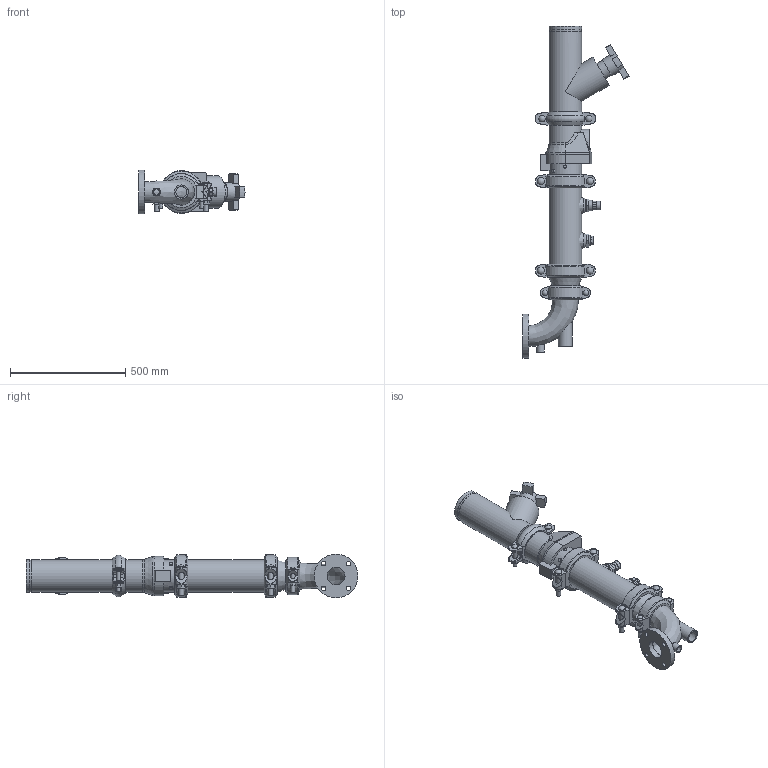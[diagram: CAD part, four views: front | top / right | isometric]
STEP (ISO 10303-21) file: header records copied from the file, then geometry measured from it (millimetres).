
FILE_DESCRIPTION(/* description */ ('VIC DVI PUMP DROP HORZ S/383 (OGSxFLG) (S/924-0.75)','CAx-IF Rec.Pracs.---Representation and Presentation of Product Manufacturing Information (PMI)---4.0---2014-10-13'),/* implementation_level */ '2;1');
FILE_NAME(/* name */ 'C:\Users\Vjadhav\AppData\Roaming\Autodesk\ApplicationPlugins\Victaulic.Temp\A892\Victaulic_IPS_Horizontal DVI_CL 150_Series 383 (OGSxFLG)_924 (0.75)_05.0x03.0 (125x80).stp',/* time_stamp */ '2022-02-28T15:43:22+05:00',/* author */ ('kkamble'),/* organization */ ('Victaulic'),/* preprocessor_version */ 'ST-DEVELOPER v17.2',/* originating_system */ 'Autodesk Inventor 2019',/* authorisation */ '');
FILE_SCHEMA (('AP242_MANAGED_MODEL_BASED_3D_ENGINEERING_MIM_LF { 1 0 10303 442 1 1 4 }'));
Length unit declared in the file: inch
Products named in the file (11): 383-924 (0.75)-05.0x03.0; Pipe-05.0x03.0; 177N-05.0; 107N-05.0; 789-05.0; 779-05.0; 924-04.0x0.75; 923-04.0x0.75; R100F-04.0x03.0; 177N-04.0; 050-05.0x04.0
Assembly tree (11 placements, depth 2):
  383-924 (0.75)-05.0x03.0
    177N-05.0  x2
    Pipe-05.0x03.0
    107N-05.0
    789-05.0
    779-05.0
    924-04.0x0.75
    923-04.0x0.75
    R100F-04.0x03.0
    177N-04.0
    050-05.0x04.0
Bounding box: 460.5 x 1441.45 x 190.5 mm (x, y, z)
Volume: 11443725.4 mm3; surface area: 1941573 mm2
Topology: 11 solids, 11 shells, 666 faces, 1778 edges, 1186 vertices
Faces by surface type: plane 361, cylinder 228, torus 24, cone 23, bspline 22, sphere 8
Full cylindrical faces by diameter (mm): 13.716 x4, 15.875 x4, 17.424 x2, 19.05 x4, 21.209 x4, 23.495 x2, 26.67 x3, 27.381 x2, 30.48 x4, 34.29 x1, 38.608 x1, 45.974 x4, 48.26 x1, 55.626 x2, 60.96 x1, 75.26 x1, 77.927 x1, 82.55 x1, 101.6 x1, 102.26 x2, 110.084 x2, 114.3 x5, 128.194 x4, 128.6 x3, 137.033 x7, 141.3 x19, 190.5 x1
Entity records: 21201 total; most frequent: CARTESIAN_POINT 5488, DIRECTION 3194, ORIENTED_EDGE 3042, EDGE_CURVE 1521, AXIS2_PLACEMENT_3D 1207, VERTEX_POINT 1014, LINE 780, VECTOR 780
